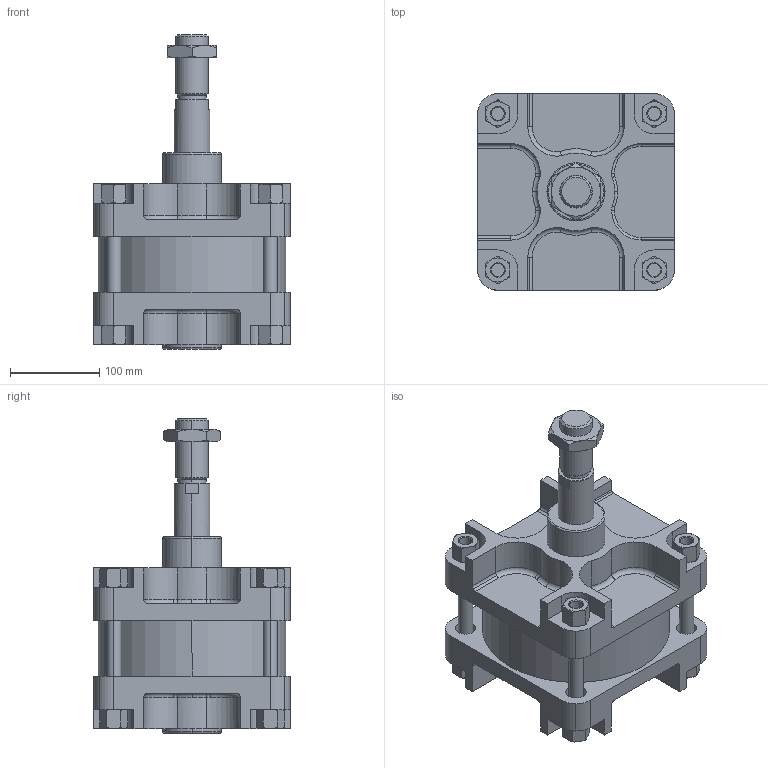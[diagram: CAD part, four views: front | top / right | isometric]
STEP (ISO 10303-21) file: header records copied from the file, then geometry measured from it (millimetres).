
FILE_DESCRIPTION(('STEP AP214'),'1');
FILE_NAME('902000000.stp','2016-06-20T15:43:05',(' '),(' '),'Spatial InterOp 3D',' ',' ');
FILE_SCHEMA(('automotive_design'));
Length unit declared in the file: metre
Products named in the file (2): 1; 2
Bounding box: 220 x 220 x 352 mm (x, y, z)
Volume: 5951835.8 mm3; surface area: 405739.8 mm2
Topology: 2 solids, 2 shells, 536 faces, 1276 edges, 790 vertices
Faces by surface type: plane 176, cylinder 164, revolution 96, cone 60, torus 40
Entity records: 24678 total; most frequent: CARTESIAN_POINT 8110, ORIENTED_EDGE 2552, DIRECTION 2544, EDGE_CURVE 1276, AXIS2_PLACEMENT_3D 982, VERTEX_POINT 790, EDGE_LOOP 592, CIRCLE 540
